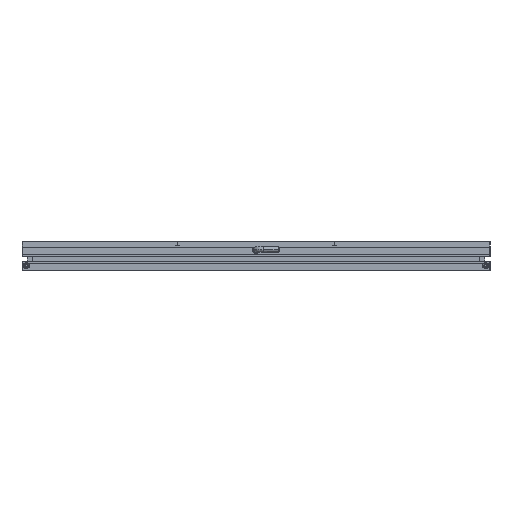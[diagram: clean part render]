
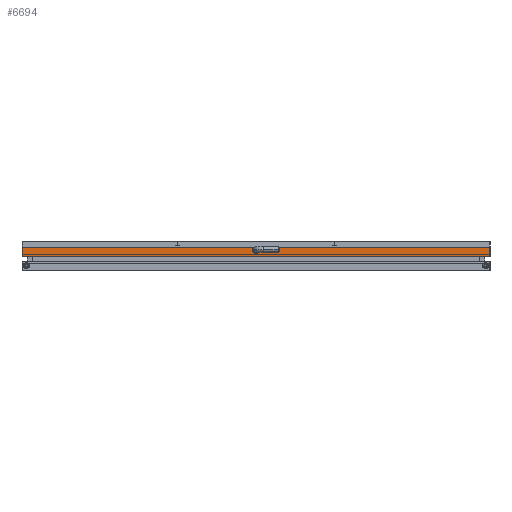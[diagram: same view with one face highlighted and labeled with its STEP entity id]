
A CAD part, left-side view. The second image highlights one B-rep face of the part: STEP entity #6694.
In plain terms, the highlighted planar face has unit normal (-1, 0, 0).
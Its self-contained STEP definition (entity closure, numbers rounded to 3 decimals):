
#28 = LINE ( 'NONE', #5227, #6579 ) ;
#61 = VERTEX_POINT ( 'NONE', #2961 ) ;
#83 = VERTEX_POINT ( 'NONE', #5019 ) ;
#188 = VERTEX_POINT ( 'NONE', #1188 ) ;
#376 = AXIS2_PLACEMENT_3D ( 'NONE', #5512, #2711, #6602 ) ;
#388 = DIRECTION ( 'NONE',  ( 0., 0., -1. ) ) ;
#565 = EDGE_CURVE ( 'NONE', #1187, #3213, #3530, .T. ) ;
#883 = ORIENTED_EDGE ( 'NONE', *, *, #5516, .T. ) ;
#889 = LINE ( 'NONE', #5427, #5038 ) ;
#1145 = VECTOR ( 'NONE', #6042, 1000. ) ;
#1187 = VERTEX_POINT ( 'NONE', #1399 ) ;
#1188 = CARTESIAN_POINT ( 'NONE',  ( -182., 2.5, -1.65 ) ) ;
#1217 = ORIENTED_EDGE ( 'NONE', *, *, #6747, .T. ) ;
#1399 = CARTESIAN_POINT ( 'NONE',  ( -182., -156.5, 0. ) ) ;
#1483 = CARTESIAN_POINT ( 'NONE',  ( -182., 157., 0. ) ) ;
#1559 = ORIENTED_EDGE ( 'NONE', *, *, #6103, .T. ) ;
#1729 = VECTOR ( 'NONE', #5298, 1000. ) ;
#1795 = VERTEX_POINT ( 'NONE', #2516 ) ;
#1797 = EDGE_CURVE ( 'NONE', #188, #2898, #6239, .T. ) ;
#1874 = EDGE_CURVE ( 'NONE', #1795, #2898, #6095, .T. ) ;
#1937 = DIRECTION ( 'NONE',  ( 0., -1., 0. ) ) ;
#2074 = CARTESIAN_POINT ( 'NONE',  ( -182., 156.5, -6.15 ) ) ;
#2099 = ORIENTED_EDGE ( 'NONE', *, *, #5435, .T. ) ;
#2516 = CARTESIAN_POINT ( 'NONE',  ( -182., 156.5, 0. ) ) ;
#2665 = FACE_OUTER_BOUND ( 'NONE', #3427, .T. ) ;
#2677 = DIRECTION ( 'NONE',  ( 1., 0., 0. ) ) ;
#2692 = CARTESIAN_POINT ( 'NONE',  ( -182., 157., -6.15 ) ) ;
#2711 = DIRECTION ( 'NONE',  ( 1., 0., 0. ) ) ;
#2898 = VERTEX_POINT ( 'NONE', #4007 ) ;
#2961 = CARTESIAN_POINT ( 'NONE',  ( -182., -2.5, -1.65 ) ) ;
#3022 = LINE ( 'NONE', #2692, #1145 ) ;
#3071 = ORIENTED_EDGE ( 'NONE', *, *, #1797, .T. ) ;
#3102 = CARTESIAN_POINT ( 'NONE',  ( -182., 2.5, -6.15 ) ) ;
#3209 = DIRECTION ( 'NONE',  ( 0., 0., -1. ) ) ;
#3213 = VERTEX_POINT ( 'NONE', #6299 ) ;
#3284 = PLANE ( 'NONE',  #376 ) ;
#3427 = EDGE_LOOP ( 'NONE', ( #1559, #3071, #4817, #883, #1217, #5574, #6128, #2099 ) ) ;
#3530 = LINE ( 'NONE', #4722, #4051 ) ;
#4007 = CARTESIAN_POINT ( 'NONE',  ( -182., 2.5, 0. ) ) ;
#4051 = VECTOR ( 'NONE', #4211, 1000. ) ;
#4211 = DIRECTION ( 'NONE',  ( 0., 0., -1. ) ) ;
#4399 = AXIS2_PLACEMENT_3D ( 'NONE', #4829, #2677, #5494 ) ;
#4418 = EDGE_CURVE ( 'NONE', #83, #1187, #6419, .T. ) ;
#4722 = CARTESIAN_POINT ( 'NONE',  ( -182., -156.5, 0. ) ) ;
#4817 = ORIENTED_EDGE ( 'NONE', *, *, #1874, .F. ) ;
#4829 = CARTESIAN_POINT ( 'NONE',  ( -182., 0., -1.65 ) ) ;
#4936 = VECTOR ( 'NONE', #7144, 1000. ) ;
#4941 = CIRCLE ( 'NONE', #4399, 2.5 ) ;
#5019 = CARTESIAN_POINT ( 'NONE',  ( -182., -2.5, 0. ) ) ;
#5038 = VECTOR ( 'NONE', #388, 1000. ) ;
#5227 = CARTESIAN_POINT ( 'NONE',  ( -182., -2.5, -6.15 ) ) ;
#5298 = DIRECTION ( 'NONE',  ( 0., 0., 1. ) ) ;
#5427 = CARTESIAN_POINT ( 'NONE',  ( -182., 156.5, 0. ) ) ;
#5435 = EDGE_CURVE ( 'NONE', #83, #61, #28, .T. ) ;
#5494 = DIRECTION ( 'NONE',  ( 0., 0., -1. ) ) ;
#5512 = CARTESIAN_POINT ( 'NONE',  ( -182., 157., -6.15 ) ) ;
#5516 = EDGE_CURVE ( 'NONE', #1795, #7295, #889, .T. ) ;
#5574 = ORIENTED_EDGE ( 'NONE', *, *, #565, .F. ) ;
#6042 = DIRECTION ( 'NONE',  ( 0., -1., 0. ) ) ;
#6095 = LINE ( 'NONE', #1483, #4936 ) ;
#6103 = EDGE_CURVE ( 'NONE', #61, #188, #4941, .T. ) ;
#6128 = ORIENTED_EDGE ( 'NONE', *, *, #4418, .F. ) ;
#6239 = LINE ( 'NONE', #3102, #1729 ) ;
#6299 = CARTESIAN_POINT ( 'NONE',  ( -182., -156.5, -6.15 ) ) ;
#6419 = LINE ( 'NONE', #7000, #6952 ) ;
#6579 = VECTOR ( 'NONE', #3209, 1000. ) ;
#6602 = DIRECTION ( 'NONE',  ( 0., 0., 1. ) ) ;
#6694 = ADVANCED_FACE ( 'NONE', ( #2665 ), #3284, .F. ) ;
#6747 = EDGE_CURVE ( 'NONE', #7295, #3213, #3022, .T. ) ;
#6952 = VECTOR ( 'NONE', #1937, 1000. ) ;
#7000 = CARTESIAN_POINT ( 'NONE',  ( -182., 157., 0. ) ) ;
#7144 = DIRECTION ( 'NONE',  ( 0., -1., 0. ) ) ;
#7295 = VERTEX_POINT ( 'NONE', #2074 ) ;
